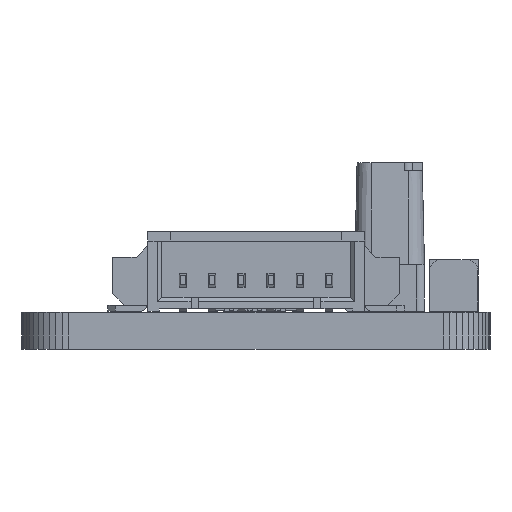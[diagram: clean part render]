
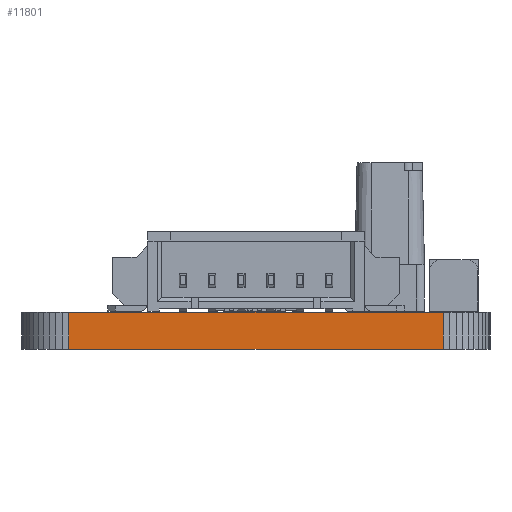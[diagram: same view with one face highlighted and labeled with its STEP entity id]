
A CAD part, front view. The second image highlights one B-rep face of the part: STEP entity #11801.
In plain terms, the highlighted planar face has unit normal (0, -1, 0).
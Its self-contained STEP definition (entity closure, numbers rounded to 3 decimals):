
#493=PLANE('',#12482);
#1734=LINE('',#17831,#3068);
#1740=LINE('',#17843,#3074);
#1741=LINE('',#17846,#3075);
#1742=LINE('',#17847,#3076);
#3068=VECTOR('',#14930,1000.);
#3074=VECTOR('',#14940,1000.);
#3075=VECTOR('',#14941,1000.);
#3076=VECTOR('',#14942,1000.);
#5824=ORIENTED_EDGE('',*,*,#7424,.T.);
#5825=ORIENTED_EDGE('',*,*,#7425,.T.);
#5826=ORIENTED_EDGE('',*,*,#7418,.F.);
#5827=ORIENTED_EDGE('',*,*,#7426,.F.);
#7418=EDGE_CURVE('',#8424,#8425,#1734,.T.);
#7424=EDGE_CURVE('',#8428,#8429,#1740,.T.);
#7425=EDGE_CURVE('',#8429,#8425,#1741,.T.);
#7426=EDGE_CURVE('',#8428,#8424,#1742,.T.);
#8424=VERTEX_POINT('',#17832);
#8425=VERTEX_POINT('',#17833);
#8428=VERTEX_POINT('',#17844);
#8429=VERTEX_POINT('',#17845);
#9133=EDGE_LOOP('',(#5824,#5825,#5826,#5827));
#9689=FACE_BOUND('',#9133,.T.);
#11801=ADVANCED_FACE('',(#9689),#493,.T.);
#12482=AXIS2_PLACEMENT_3D('',#17842,#14938,#14939);
#14930=DIRECTION('',(0.,0.,1.));
#14938=DIRECTION('',(0.,-1.,0.));
#14939=DIRECTION('',(-1.,0.,0.));
#14940=DIRECTION('',(0.,0.,1.));
#14941=DIRECTION('',(-1.,0.,0.));
#14942=DIRECTION('',(-1.,0.,0.));
#17831=CARTESIAN_POINT('',(138.4,-88.4,0.));
#17832=CARTESIAN_POINT('',(138.4,-88.4,0.));
#17833=CARTESIAN_POINT('',(138.4,-88.4,1.58));
#17842=CARTESIAN_POINT('',(154.4,-88.4,0.));
#17843=CARTESIAN_POINT('',(154.4,-88.4,0.));
#17844=CARTESIAN_POINT('',(154.4,-88.4,0.));
#17845=CARTESIAN_POINT('',(154.4,-88.4,1.58));
#17846=CARTESIAN_POINT('',(154.4,-88.4,1.58));
#17847=CARTESIAN_POINT('',(154.4,-88.4,0.));
